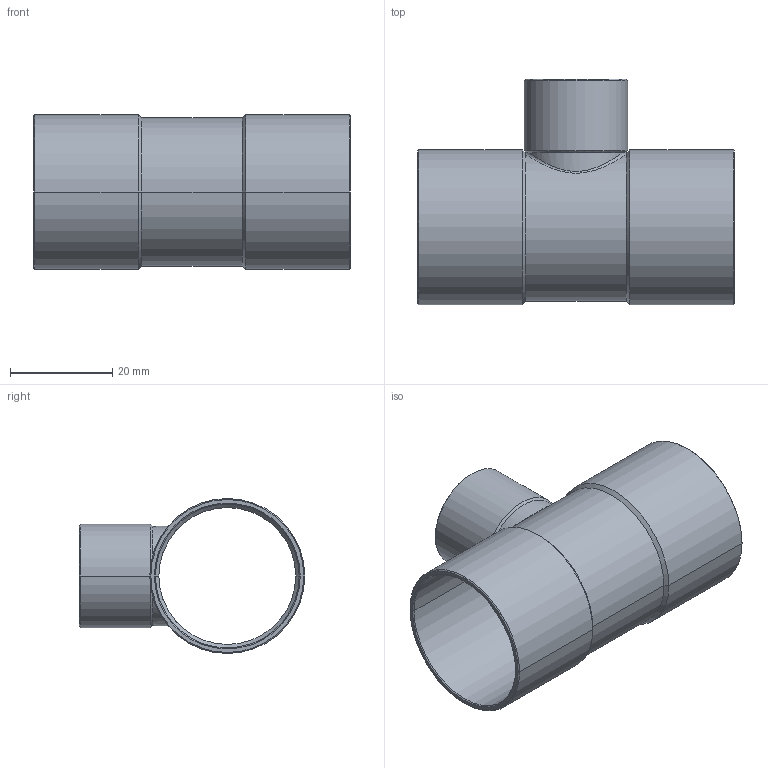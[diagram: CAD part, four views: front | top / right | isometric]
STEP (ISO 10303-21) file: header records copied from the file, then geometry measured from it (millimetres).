
FILE_DESCRIPTION((''),'2;1');
FILE_NAME('G:\Technics\CAD\Bauteile\15130\15130281828.stp','2005-11-02T10:19:45',('boden'),(''),'Autodesk Inventor 8','Autodesk Inventor 8','');
FILE_SCHEMA(('AUTOMOTIVE_DESIGN { 1 0 10303 214 1 1 1 1 }'));
Length unit declared in the file: millimetre
Products named in the file (1): 15130281828
Bounding box: 62 x 44.17 x 30.35 mm (x, y, z)
Volume: 7003.2 mm3; surface area: 12974.7 mm2
Topology: 1 solids, 1 shells, 48 faces, 108 edges, 61 vertices
Faces by surface type: cone 24, cylinder 20, plane 3, bspline 1
Entity records: 1638 total; most frequent: CARTESIAN_POINT 544, DIRECTION 236, ORIENTED_EDGE 216, EDGE_CURVE 108, AXIS2_PLACEMENT_3D 97, VERTEX_POINT 61, EDGE_LOOP 51, CIRCLE 49
